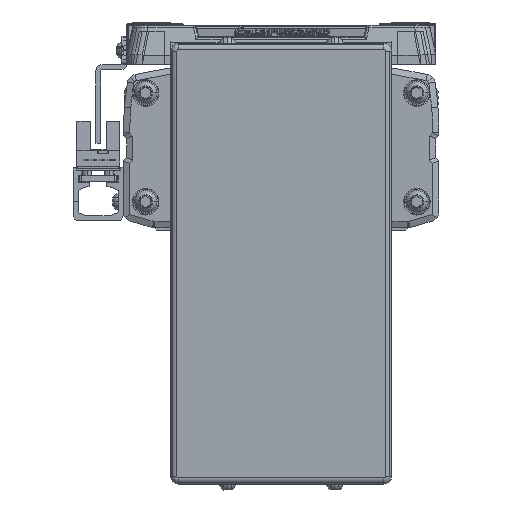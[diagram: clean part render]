
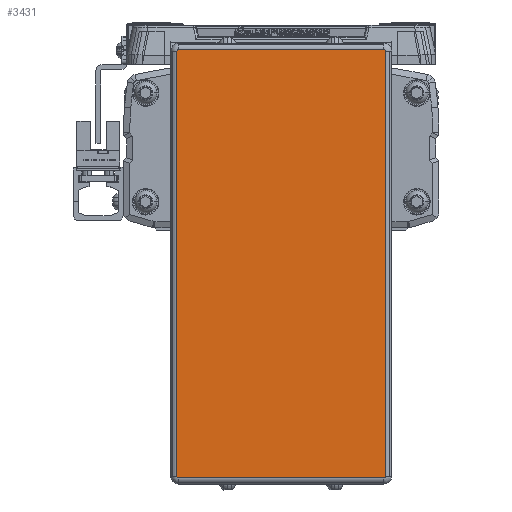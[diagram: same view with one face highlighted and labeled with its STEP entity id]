
A CAD part, left-side view. The second image highlights one B-rep face of the part: STEP entity #3431.
In plain terms, the highlighted planar face has unit normal (-1, 0, 0).
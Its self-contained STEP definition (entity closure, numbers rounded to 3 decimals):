
#3431=ADVANCED_FACE('',(#9172),#9173,.F.);
#9172=FACE_OUTER_BOUND('',#17960,.T.);
#9173=PLANE('',#17961);
#17960=EDGE_LOOP('',(#27466,#27467,#27468,#27469,#27470,#27471,#27472,#27473));
#17961=AXIS2_PLACEMENT_3D('',#27474,#27475,#27476);
#27466=ORIENTED_EDGE('',*,*,#51472,.T.);
#27467=ORIENTED_EDGE('',*,*,#51473,.T.);
#27468=ORIENTED_EDGE('',*,*,#51474,.T.);
#27469=ORIENTED_EDGE('',*,*,#51475,.T.);
#27470=ORIENTED_EDGE('',*,*,#50762,.T.);
#27471=ORIENTED_EDGE('',*,*,#51476,.T.);
#27472=ORIENTED_EDGE('',*,*,#51477,.T.);
#27473=ORIENTED_EDGE('',*,*,#51478,.T.);
#27474=CARTESIAN_POINT('',(-616.0,0.,-41.6));
#27475=DIRECTION('',(1.0,0.,0.));
#27476=DIRECTION('',(0.,0.,1.0));
#50762=EDGE_CURVE('',#60353,#60351,#60354,.T.);
#51472=EDGE_CURVE('',#61652,#61653,#61654,.T.);
#51473=EDGE_CURVE('',#61653,#61655,#61656,.T.);
#51474=EDGE_CURVE('',#61655,#61657,#61658,.T.);
#51475=EDGE_CURVE('',#61657,#60353,#61659,.T.);
#51476=EDGE_CURVE('',#60351,#61660,#61661,.T.);
#51477=EDGE_CURVE('',#61660,#61662,#61663,.T.);
#51478=EDGE_CURVE('',#61662,#61652,#61664,.T.);
#60351=VERTEX_POINT('',#74417);
#60353=VERTEX_POINT('',#74419);
#60354=LINE('',#74420,#74421);
#61652=VERTEX_POINT('',#76138);
#61653=VERTEX_POINT('',#76139);
#61654=LINE('',#76140,#76141);
#61655=VERTEX_POINT('',#76142);
#61656=CIRCLE('',#76143,0.5);
#61657=VERTEX_POINT('',#76144);
#61658=LINE('',#76145,#76146);
#61659=CIRCLE('',#76147,0.5);
#61660=VERTEX_POINT('',#76148);
#61661=CIRCLE('',#76149,0.5);
#61662=VERTEX_POINT('',#76150);
#61663=LINE('',#76151,#76152);
#61664=CIRCLE('',#76153,0.5);
#74417=CARTESIAN_POINT('',(-616.0,33.05,-109.));
#74419=CARTESIAN_POINT('',(-616.,33.05,25.8));
#74420=CARTESIAN_POINT('',(-616.0,33.05,-41.6));
#74421=VECTOR('',#93667,10.0);
#76138=CARTESIAN_POINT('',(-616.0,-33.05,-109.));
#76139=CARTESIAN_POINT('',(-616.,-33.05,25.8));
#76140=CARTESIAN_POINT('',(-616.,-33.05,-41.6));
#76141=VECTOR('',#94782,10.0);
#76142=CARTESIAN_POINT('',(-616.,-32.55,26.3));
#76143=AXIS2_PLACEMENT_3D('',#94783,#94784,#94785);
#76144=CARTESIAN_POINT('',(-616.,32.55,26.3));
#76145=CARTESIAN_POINT('',(-616.,0.,26.3));
#76146=VECTOR('',#94786,10.0);
#76147=AXIS2_PLACEMENT_3D('',#94787,#94788,#94789);
#76148=CARTESIAN_POINT('',(-616.0,32.55,-109.5));
#76149=AXIS2_PLACEMENT_3D('',#94790,#94791,#94792);
#76150=CARTESIAN_POINT('',(-616.0,-32.55,-109.5));
#76151=CARTESIAN_POINT('',(-616.0,0.,-109.5));
#76152=VECTOR('',#94793,10.0);
#76153=AXIS2_PLACEMENT_3D('',#94794,#94795,#94796);
#93667=DIRECTION('',(0.,0.,-1.0));
#94782=DIRECTION('',(0.,0.,1.0));
#94783=CARTESIAN_POINT('',(-616.,-32.55,25.8));
#94784=DIRECTION('',(-1.0,0.,0.));
#94785=DIRECTION('',(0.,-0.707,0.707));
#94786=DIRECTION('',(0.,1.0,0.));
#94787=CARTESIAN_POINT('',(-616.,32.55,25.8));
#94788=DIRECTION('',(-1.0,0.,0.));
#94789=DIRECTION('',(0.,0.707,0.707));
#94790=CARTESIAN_POINT('',(-616.0,32.55,-109.));
#94791=DIRECTION('',(-1.0,0.,0.));
#94792=DIRECTION('',(0.,0.707,-0.707));
#94793=DIRECTION('',(0.,-1.0,0.));
#94794=CARTESIAN_POINT('',(-616.0,-32.55,-109.));
#94795=DIRECTION('',(-1.0,0.,0.));
#94796=DIRECTION('',(0.,-0.707,-0.707));
